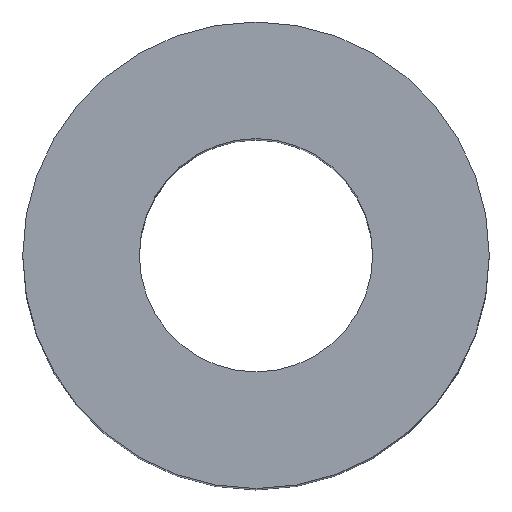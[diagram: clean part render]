
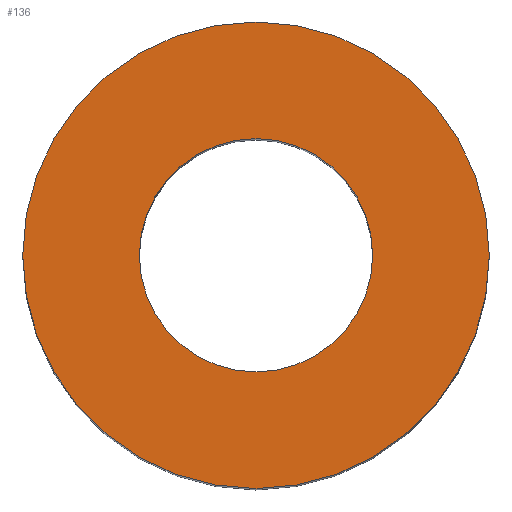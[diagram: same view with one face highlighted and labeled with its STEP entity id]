
A CAD part, top view. The second image highlights one B-rep face of the part: STEP entity #136.
In plain terms, the highlighted planar face has unit normal (0, 0, 1).
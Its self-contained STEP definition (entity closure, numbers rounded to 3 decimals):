
#1 = FACE_OUTER_BOUND ( 'NONE', #6, .T. ) ;
#6 = EDGE_LOOP ( 'NONE', ( #186, #37 ) ) ;
#12 = EDGE_LOOP ( 'NONE', ( #209, #97 ) ) ;
#20 = EDGE_CURVE ( 'NONE', #48, #82, #189, .T. ) ;
#22 = DIRECTION ( 'NONE',  ( 0., 0., 1. ) ) ;
#28 = CIRCLE ( 'NONE', #44, 12.5 ) ;
#29 = DIRECTION ( 'NONE',  ( 0., 0., 1. ) ) ;
#30 = CARTESIAN_POINT ( 'NONE',  ( 0., 0., 89. ) ) ;
#32 = DIRECTION ( 'NONE',  ( 1., 0., 0. ) ) ;
#37 = ORIENTED_EDGE ( 'NONE', *, *, #20, .T. ) ;
#44 = AXIS2_PLACEMENT_3D ( 'NONE', #175, #29, #142 ) ;
#48 = VERTEX_POINT ( 'NONE', #131 ) ;
#57 = EDGE_CURVE ( 'NONE', #82, #48, #112, .T. ) ;
#63 = AXIS2_PLACEMENT_3D ( 'NONE', #108, #22, #32 ) ;
#68 = DIRECTION ( 'NONE',  ( 0., 0., 1. ) ) ;
#69 = CARTESIAN_POINT ( 'NONE',  ( 0., 0., 89. ) ) ;
#73 = DIRECTION ( 'NONE',  ( 0., 0., 1. ) ) ;
#77 = AXIS2_PLACEMENT_3D ( 'NONE', #113, #73, #101 ) ;
#82 = VERTEX_POINT ( 'NONE', #203 ) ;
#88 = DIRECTION ( 'NONE',  ( 0., 0., 1. ) ) ;
#91 = VERTEX_POINT ( 'NONE', #206 ) ;
#97 = ORIENTED_EDGE ( 'NONE', *, *, #160, .F. ) ;
#101 = DIRECTION ( 'NONE',  ( 1., 0., 0. ) ) ;
#103 = FACE_BOUND ( 'NONE', #12, .T. ) ;
#108 = CARTESIAN_POINT ( 'NONE',  ( 0., 0., 89. ) ) ;
#109 = EDGE_CURVE ( 'NONE', #122, #91, #141, .T. ) ;
#112 = CIRCLE ( 'NONE', #63, 25. ) ;
#113 = CARTESIAN_POINT ( 'NONE',  ( 0., 0., 89. ) ) ;
#118 = CARTESIAN_POINT ( 'NONE',  ( -12.5, 0., 89. ) ) ;
#122 = VERTEX_POINT ( 'NONE', #118 ) ;
#127 = DIRECTION ( 'NONE',  ( 1., 0., 0. ) ) ;
#131 = CARTESIAN_POINT ( 'NONE',  ( 25., 0., 89. ) ) ;
#136 = ADVANCED_FACE ( 'NONE', ( #1, #103 ), #158, .T. ) ;
#141 = CIRCLE ( 'NONE', #178, 12.5 ) ;
#142 = DIRECTION ( 'NONE',  ( 1., 0., 0. ) ) ;
#156 = AXIS2_PLACEMENT_3D ( 'NONE', #30, #88, #187 ) ;
#158 = PLANE ( 'NONE',  #77 ) ;
#160 = EDGE_CURVE ( 'NONE', #91, #122, #28, .T. ) ;
#175 = CARTESIAN_POINT ( 'NONE',  ( 0., 0., 89. ) ) ;
#178 = AXIS2_PLACEMENT_3D ( 'NONE', #69, #68, #127 ) ;
#186 = ORIENTED_EDGE ( 'NONE', *, *, #57, .T. ) ;
#187 = DIRECTION ( 'NONE',  ( 1., 0., 0. ) ) ;
#189 = CIRCLE ( 'NONE', #156, 25. ) ;
#203 = CARTESIAN_POINT ( 'NONE',  ( -25., 0., 89. ) ) ;
#206 = CARTESIAN_POINT ( 'NONE',  ( 12.5, 0., 89. ) ) ;
#209 = ORIENTED_EDGE ( 'NONE', *, *, #109, .F. ) ;
